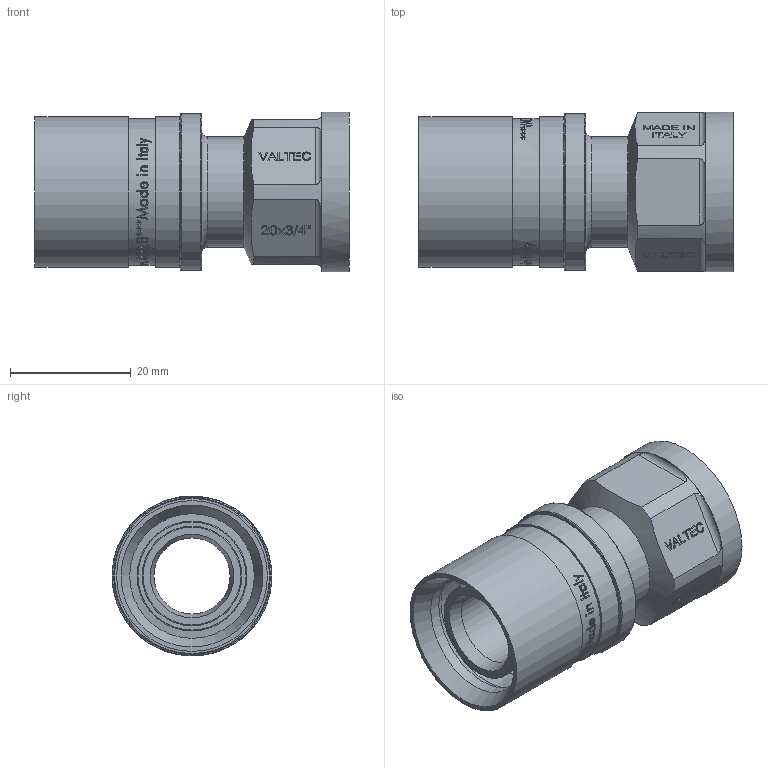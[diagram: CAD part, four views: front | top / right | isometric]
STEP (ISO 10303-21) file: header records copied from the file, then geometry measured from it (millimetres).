
FILE_DESCRIPTION(/* description */ (''),/* implementation_level */ '2;1');
FILE_NAME(/* name */ 'F:\Артём\00000\Работа удаленка\Аксеальные фитинги\VTm.402.BG.002004.stp',/* time_stamp */ '2021-01-25T14:15:26+03:00',/* author */ ('almis'),/* organization */ (''),/* preprocessor_version */ 'ST-DEVELOPER v18',/* originating_system */ 'Autodesk Inventor 2020',/* authorisation */ '');
FILE_SCHEMA (('AUTOMOTIVE_DESIGN { 1 0 10303 214 3 1 1 }'));
Length unit declared in the file: millimetre
Products named in the file (1): VTm.403.BG.001616
Bounding box: 52.06 x 26.5 x 26.5 mm (x, y, z)
Volume: 10947.3 mm3; surface area: 11754.1 mm2
Topology: 1 solids, 1 shells, 1085 faces, 2964 edges, 1993 vertices
Faces by surface type: plane 490, bspline 451, cylinder 110, torus 23, cone 11
Full cylindrical faces by diameter (mm): 12.6 x1, 15.7 x5, 16.5 x4, 18.2 x1, 18.3 x1, 18.6 x6, 20.65 x2, 22.2 x8, 24.3 x1, 25 x2, 26 x1, 26.5 x1
Entity records: 43633 total; most frequent: CARTESIAN_POINT 18870, ORIENTED_EDGE 5928, DIRECTION 3669, EDGE_CURVE 2964, VERTEX_POINT 1993, LINE 1607, VECTOR 1607, EDGE_LOOP 1199
